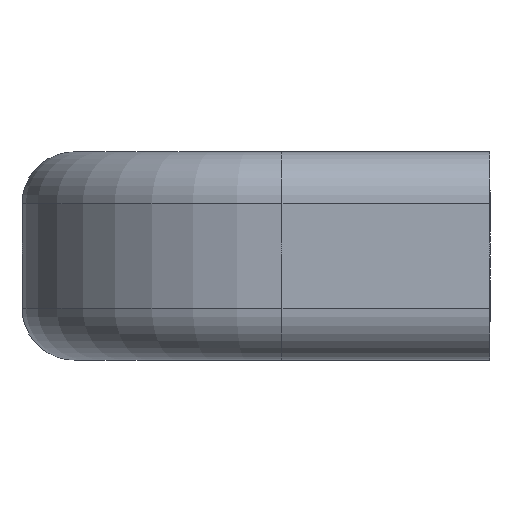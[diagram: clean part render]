
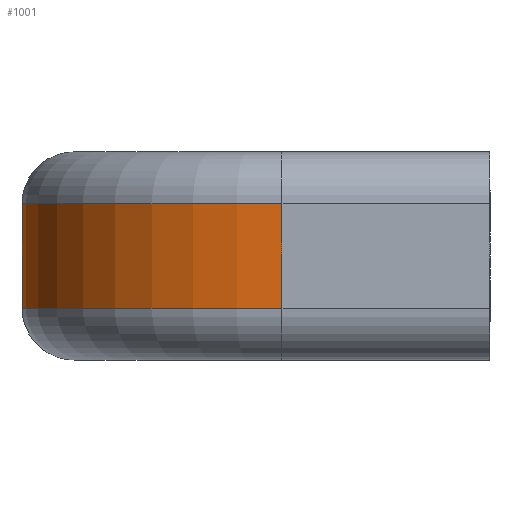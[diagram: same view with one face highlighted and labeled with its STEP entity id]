
A CAD part, left-side view. The second image highlights one B-rep face of the part: STEP entity #1001.
In plain terms, the highlighted cylindrical face has radius 25 mm (diameter 50 mm), a partial arc.
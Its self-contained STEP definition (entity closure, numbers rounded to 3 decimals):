
#28 = VERTEX_POINT ( 'NONE', #261 ) ;
#61 = VERTEX_POINT ( 'NONE', #336 ) ;
#62 = VERTEX_POINT ( 'NONE', #335 ) ;
#68 = EDGE_CURVE ( 'NONE', #62, #61, #334, .T. ) ;
#92 = ORIENTED_EDGE ( 'NONE', *, *, #109, .F. ) ;
#93 = VERTEX_POINT ( 'NONE', #351 ) ;
#94 = EDGE_CURVE ( 'NONE', #28, #93, #346, .T. ) ;
#95 = EDGE_CURVE ( 'NONE', #93, #61, #403, .T. ) ;
#96 = ORIENTED_EDGE ( 'NONE', *, *, #68, .F. ) ;
#97 = ORIENTED_EDGE ( 'NONE', *, *, #95, .T. ) ;
#109 = EDGE_CURVE ( 'NONE', #28, #62, #382, .T. ) ;
#261 = CARTESIAN_POINT ( 'NONE',  ( -105., 20., -5. ) ) ;
#331 = DIRECTION ( 'NONE',  ( 0., 0., 1. ) ) ;
#332 = VECTOR ( 'NONE', #331, 1000. ) ;
#333 = CARTESIAN_POINT ( 'NONE',  ( -80., 45., 5. ) ) ;
#334 = LINE ( 'NONE', #333, #332 ) ;
#335 = CARTESIAN_POINT ( 'NONE',  ( -80., 45., -5. ) ) ;
#336 = CARTESIAN_POINT ( 'NONE',  ( -80., 45., 5. ) ) ;
#344 = DIRECTION ( 'NONE',  ( 0., 0., 1. ) ) ;
#345 = CARTESIAN_POINT ( 'NONE',  ( -105., 20., 5. ) ) ;
#346 = LINE ( 'NONE', #345, #404 ) ;
#351 = CARTESIAN_POINT ( 'NONE',  ( -105., 20., 5. ) ) ;
#378 = DIRECTION ( 'NONE',  ( -1., 0., 0. ) ) ;
#379 = DIRECTION ( 'NONE',  ( 0., 0., -1. ) ) ;
#380 = CARTESIAN_POINT ( 'NONE',  ( -80., 20., -5. ) ) ;
#381 = AXIS2_PLACEMENT_3D ( 'NONE', #380, #379, #378 ) ;
#382 = CIRCLE ( 'NONE', #381, 25. ) ;
#399 = DIRECTION ( 'NONE',  ( -1., 0., 0. ) ) ;
#400 = DIRECTION ( 'NONE',  ( 0., 0., -1. ) ) ;
#401 = CARTESIAN_POINT ( 'NONE',  ( -80., 20., 5. ) ) ;
#402 = AXIS2_PLACEMENT_3D ( 'NONE', #401, #400, #399 ) ;
#403 = CIRCLE ( 'NONE', #402, 25. ) ;
#404 = VECTOR ( 'NONE', #344, 1000. ) ;
#689 = DIRECTION ( 'NONE',  ( -1., 0., 0. ) ) ;
#690 = DIRECTION ( 'NONE',  ( 0., 0., -1. ) ) ;
#691 = AXIS2_PLACEMENT_3D ( 'NONE', #693, #690, #689 ) ;
#693 = CARTESIAN_POINT ( 'NONE',  ( -80., 20., 0. ) ) ;
#694 = CYLINDRICAL_SURFACE ( 'NONE', #691, 25. ) ;
#695 = FACE_OUTER_BOUND ( 'NONE', #1008, .T. ) ;
#1001 = ADVANCED_FACE ( 'NONE', ( #695 ), #694, .T. ) ;
#1007 = ORIENTED_EDGE ( 'NONE', *, *, #94, .T. ) ;
#1008 = EDGE_LOOP ( 'NONE', ( #1007, #97, #96, #92 ) ) ;
